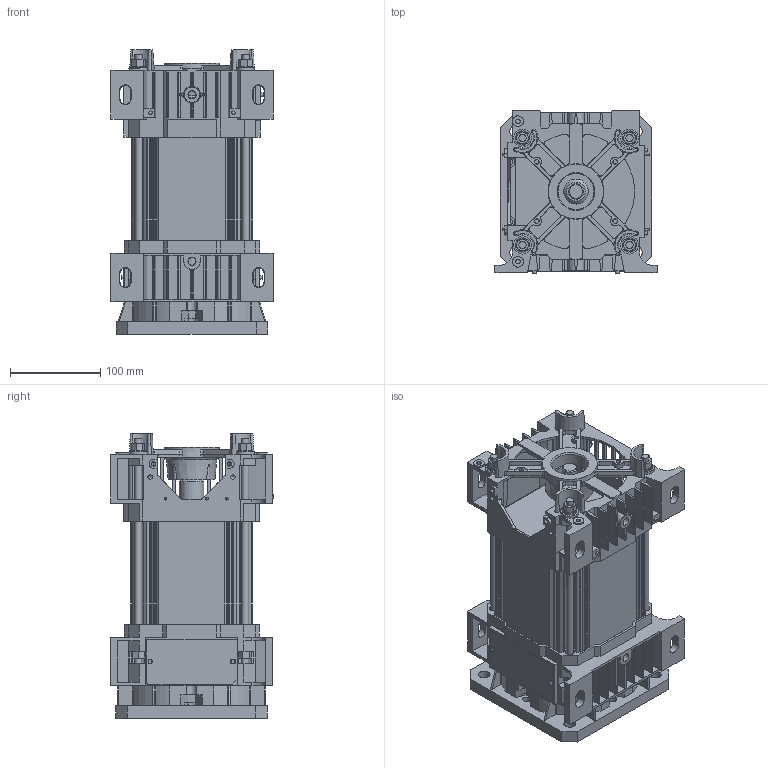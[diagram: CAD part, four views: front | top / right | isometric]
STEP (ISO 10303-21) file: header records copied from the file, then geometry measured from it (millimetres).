
FILE_DESCRIPTION(/* description */ ('Motore Tipo S34 Fl.155 F19-H125 NO Volano NO Piedi'),/* implementation_level */ '2;1');
FILE_NAME(/* name */ 'Y:\ServerTecnico\Mockup Motori x Sito Elmo\Mockup Tipo S34 Size 3 FL155 F19-H125 NO Volano.stp',/* time_stamp */ '2016-10-06T09:34:24+02:00',/* author */ ('aparmini'),/* organization */ (''),/* preprocessor_version */ 'ST-DEVELOPER v16.5',/* originating_system */ 'Autodesk Inventor 2017',/* authorisation */ '');
FILE_SCHEMA (('AUTOMOTIVE_DESIGN { 1 0 10303 214 3 1 1 }'));
Products named in the file (8): Mockup Motore Size 3 FL155 F19-H125 NO Volano; Mockup CP3XD040N; Mockup CA3ND155Q; Mockup Statore Size 3 - F19-H125; TGS10; TI08ML250; DIN 125-2 - B 8,4; UNI 5587 - M8
Assembly tree (20 placements, depth 2):
  Mockup Motore Size 3 FL155 F19-H125 NO Volano
    Mockup CP3XD040N
    Mockup CA3ND155Q
    Mockup Statore Size 3 - F19-H125
    TGS10
    TI08ML250  x4
    UNI 5587 - M8  x8
    DIN 125-2 - B 8,4  x4
Bounding box: 180 x 181 x 316 mm (x, y, z)
Volume: 3116203.6 mm3; surface area: 562331.1 mm2
Topology: 20 solids, 20 shells, 1909 faces, 5299 edges, 3428 vertices
Faces by surface type: plane 1048, cylinder 410, cone 340, bspline 86, torus 25
Full cylindrical faces by diameter (mm): 3.2 x3, 4 x8, 4.917 x4, 5 x2, 6.647 x8, 8 x4, 8.4 x4, 12 x2, 13 x4, 16 x4, 17 x1, 19 x1, 20 x4, 21 x1, 27.5 x1, 32 x1, 40 x2, 40.1 x1, 42.5 x1, 46 x1, 81 x1, 155 x1
Entity records: 58873 total; most frequent: CARTESIAN_POINT 13130, ORIENTED_EDGE 9592, DIRECTION 9568, EDGE_CURVE 4796, AXIS2_PLACEMENT_3D 3303, VERTEX_POINT 3187, LINE 2962, VECTOR 2962
